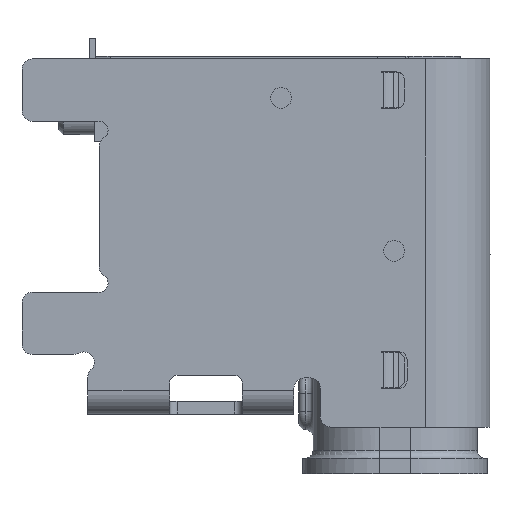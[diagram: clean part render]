
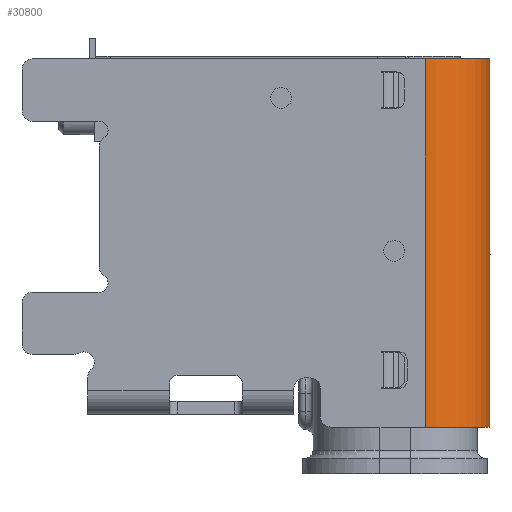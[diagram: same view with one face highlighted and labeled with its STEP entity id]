
A CAD part, left-side view. The second image highlights one B-rep face of the part: STEP entity #30800.
In plain terms, the highlighted cylindrical face has radius 1.25 mm (diameter 2.5 mm), a partial arc.
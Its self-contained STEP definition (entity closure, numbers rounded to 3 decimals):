
#1041 = CARTESIAN_POINT ( 'NONE',  ( 15.337, -0.505, -2.95 ) ) ;
#3659 = CARTESIAN_POINT ( 'NONE',  ( 16.587, -0.505, 4.15 ) ) ;
#5032 = CARTESIAN_POINT ( 'NONE',  ( 16.587, -1.755, -2.95 ) ) ;
#5488 = ORIENTED_EDGE ( 'NONE', *, *, #49299, .T. ) ;
#6582 = CARTESIAN_POINT ( 'NONE',  ( 15.337, -0.505, -2.95 ) ) ;
#7724 = AXIS2_PLACEMENT_3D ( 'NONE', #3659, #43116, #17018 ) ;
#9394 = CARTESIAN_POINT ( 'NONE',  ( 16.587, -1.755, 4.15 ) ) ;
#9768 = ORIENTED_EDGE ( 'NONE', *, *, #51800, .T. ) ;
#10574 = DIRECTION ( 'NONE',  ( 0., 0., -1. ) ) ;
#12402 = EDGE_LOOP ( 'NONE', ( #49394, #25825, #9768, #5488 ) ) ;
#17018 = DIRECTION ( 'NONE',  ( -1., 0., 0. ) ) ;
#20531 = AXIS2_PLACEMENT_3D ( 'NONE', #52937, #30773, #48931 ) ;
#21340 = VECTOR ( 'NONE', #10574, 1000. ) ;
#22506 = CYLINDRICAL_SURFACE ( 'NONE', #20531, 1.25 ) ;
#25825 = ORIENTED_EDGE ( 'NONE', *, *, #26209, .T. ) ;
#26209 = EDGE_CURVE ( 'NONE', #46641, #51539, #44995, .T. ) ;
#27881 = DIRECTION ( 'NONE',  ( 0., 0., -1. ) ) ;
#30773 = DIRECTION ( 'NONE',  ( 0., 0., -1. ) ) ;
#30800 = ADVANCED_FACE ( 'NONE', ( #49213 ), #22506, .T. ) ;
#32704 = DIRECTION ( 'NONE',  ( -1., 0., 0. ) ) ;
#35649 = AXIS2_PLACEMENT_3D ( 'NONE', #50024, #27881, #32704 ) ;
#37261 = LINE ( 'NONE', #6582, #21340 ) ;
#40186 = CIRCLE ( 'NONE', #35649, 1.25 ) ;
#41092 = CARTESIAN_POINT ( 'NONE',  ( 15.337, -0.505, 4.15 ) ) ;
#43116 = DIRECTION ( 'NONE',  ( 0., 0., -1. ) ) ;
#43557 = VECTOR ( 'NONE', #49842, 1000. ) ;
#44887 = EDGE_CURVE ( 'NONE', #46641, #55897, #40186, .T. ) ;
#44995 = LINE ( 'NONE', #45845, #43557 ) ;
#45845 = CARTESIAN_POINT ( 'NONE',  ( 16.587, -1.755, -2.95 ) ) ;
#46641 = VERTEX_POINT ( 'NONE', #5032 ) ;
#48931 = DIRECTION ( 'NONE',  ( -1., 0., 0. ) ) ;
#49213 = FACE_OUTER_BOUND ( 'NONE', #12402, .T. ) ;
#49299 = EDGE_CURVE ( 'NONE', #56091, #55897, #37261, .T. ) ;
#49394 = ORIENTED_EDGE ( 'NONE', *, *, #44887, .F. ) ;
#49456 = CIRCLE ( 'NONE', #7724, 1.25 ) ;
#49842 = DIRECTION ( 'NONE',  ( 0., 0., 1. ) ) ;
#50024 = CARTESIAN_POINT ( 'NONE',  ( 16.587, -0.505, -2.95 ) ) ;
#51539 = VERTEX_POINT ( 'NONE', #9394 ) ;
#51800 = EDGE_CURVE ( 'NONE', #51539, #56091, #49456, .T. ) ;
#52937 = CARTESIAN_POINT ( 'NONE',  ( 16.587, -0.505, -2.95 ) ) ;
#55897 = VERTEX_POINT ( 'NONE', #1041 ) ;
#56091 = VERTEX_POINT ( 'NONE', #41092 ) ;
